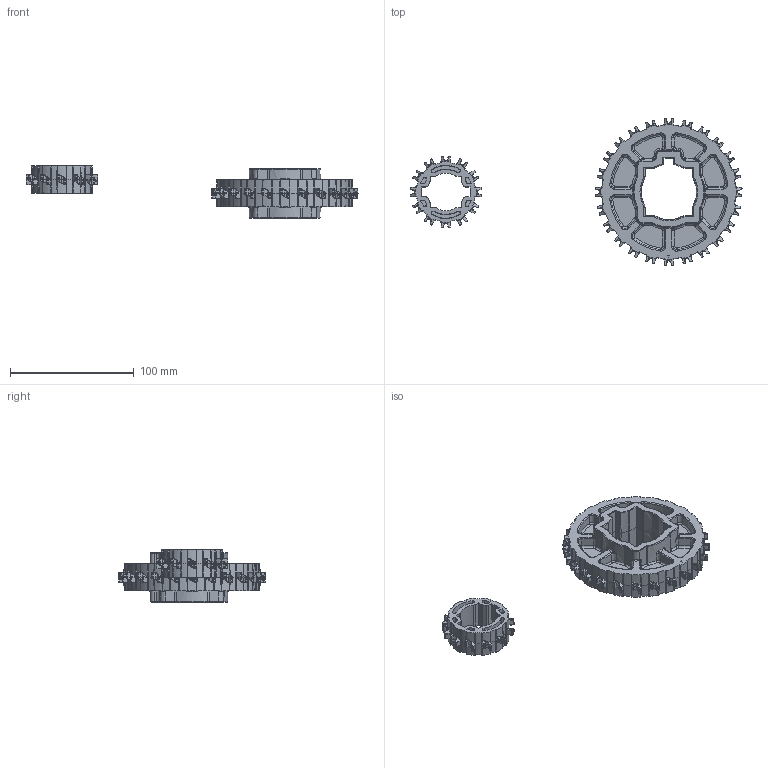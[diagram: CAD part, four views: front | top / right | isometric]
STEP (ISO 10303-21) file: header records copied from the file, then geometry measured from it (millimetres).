
FILE_DESCRIPTION(/* description */ (''),/* implementation_level */ '2;1');
FILE_NAME(/* name */ 'HS-1100-12T-24T.stp',/* time_stamp */ '2022-12-03T08:27:35+08:00',/* author */ (''),/* organization */ (''),/* preprocessor_version */ 'ST-DEVELOPER v15',/* originating_system */ 'SIEMENS PLM Software NX 8.5',/* authorisation */ '');
FILE_SCHEMA (('AP203_CONFIGURATION_CONTROLLED_3D_DESIGN_OF_MECHANICAL_PARTS_AND_ASSEMBLIES_MIM_LF { 1 0 10303 403 2 1 2}'));
Length unit declared in the file: millimetre
Products named in the file (1): Admi11E04EA9ag6m
Bounding box: 267.91 x 118.02 x 42.06 mm (x, y, z)
Volume: 152277.1 mm3; surface area: 58855.3 mm2
Topology: 2 solids, 2 shells, 2782 faces, 6967 edges, 4224 vertices
Faces by surface type: plane 1193, cone 796, bspline 308, cylinder 225, torus 146, extrusion 114
Entity records: 114271 total; most frequent: CARTESIAN_POINT 30966, ORIENTED_EDGE 13870, DIRECTION 12564, EDGE_CURVE 6935, AXIS2_PLACEMENT_3D 4466, VERTEX_POINT 4224, VECTOR 3632, LINE 3518
